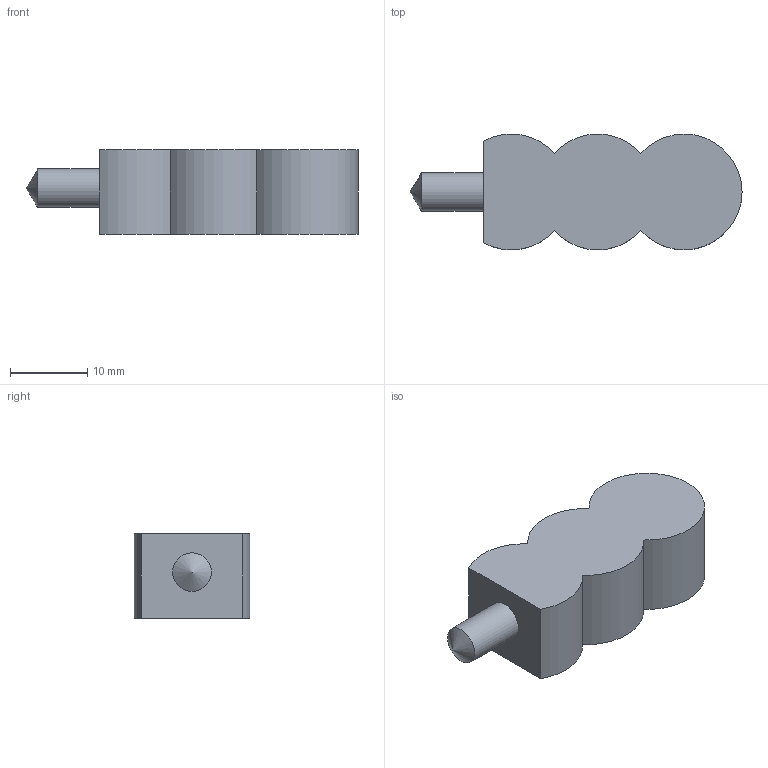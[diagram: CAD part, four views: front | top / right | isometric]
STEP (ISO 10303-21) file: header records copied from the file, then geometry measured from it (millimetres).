
FILE_DESCRIPTION(/* description */ (''),/* implementation_level */ '2;1');
FILE_NAME(/* name */ 'C:\Users\matthiask.LAMELLONET\Desktop\Cabineo_Bund_aufliegend_Variante_1-2_Gegenbohrung_D5x8mm.stp',/* time_stamp */ '2021-07-13T14:36:08+02:00',/* author */ ('matthiask'),/* organization */ (''),/* preprocessor_version */ 'ST-DEVELOPER v18',/* originating_system */ 'Autodesk Inventor 2020',/* authorisation */ '');
FILE_SCHEMA (('AUTOMOTIVE_DESIGN { 1 0 10303 214 3 1 1 }'));
Length unit declared in the file: millimetre
Products named in the file (3): Cabineo Bund aufliegend Variante 1-2_Gegenbohrung D5x8; Cabineo Bund aufliegend Variante 1-2; Bohrung D8x13.5
Assembly tree (2 placements, depth 2):
  Cabineo Bund aufliegend Variante 1-2_Gegenbohrung D5x8
    Cabineo Bund aufliegend Variante 1-2
    Bohrung D8x13.5
Bounding box: 43 x 15 x 11 mm (x, y, z)
Volume: 5025 mm3; surface area: 2094.4 mm2
Topology: 2 solids, 2 shells, 11 faces, 25 edges, 17 vertices
Faces by surface type: cylinder 6, plane 4, cone 1
Full cylindrical faces by diameter (mm): 5 x1
Entity records: 439 total; most frequent: DIRECTION 70, CARTESIAN_POINT 57, ORIENTED_EDGE 48, AXIS2_PLACEMENT_3D 30, EDGE_CURVE 24, VERTEX_POINT 17, CIRCLE 14, FACE_OUTER_BOUND 11
